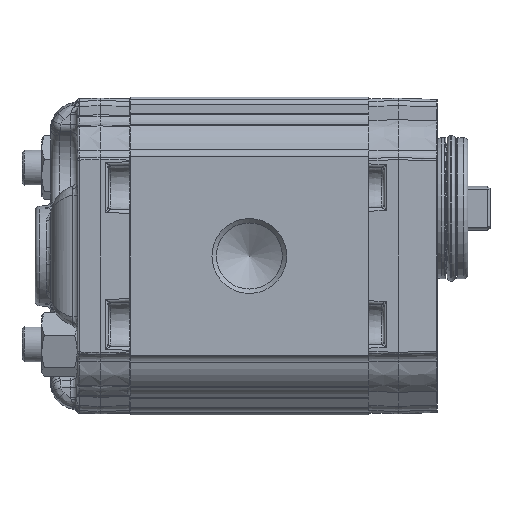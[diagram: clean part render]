
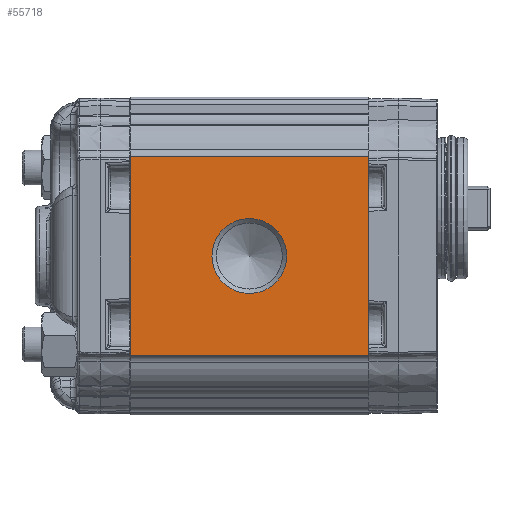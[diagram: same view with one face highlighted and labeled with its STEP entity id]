
A CAD part, left-side view. The second image highlights one B-rep face of the part: STEP entity #55718.
In plain terms, the highlighted planar face has unit normal (-1, 0, 0) as drawn and (1, 0, 0) by its records, which use the part's own axes.
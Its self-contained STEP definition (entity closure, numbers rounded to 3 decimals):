
#3276=PLANE('',#59160);
#4207=LINE('',#97574,#6105);
#4209=LINE('',#97603,#6107);
#4234=LINE('',#97691,#6132);
#4235=LINE('',#97693,#6133);
#6105=VECTOR('',#65987,1000.);
#6107=VECTOR('',#66015,1000.);
#6132=VECTOR('',#66108,1000.);
#6133=VECTOR('',#66111,1000.);
#11800=ORIENTED_EDGE('',*,*,#21317,.T.);
#11801=ORIENTED_EDGE('',*,*,#21307,.T.);
#11802=ORIENTED_EDGE('',*,*,#21259,.T.);
#11803=ORIENTED_EDGE('',*,*,#21308,.T.);
#11804=ORIENTED_EDGE('',*,*,#21245,.F.);
#21245=EDGE_CURVE('',#26271,#26272,#4207,.T.);
#21259=EDGE_CURVE('',#26286,#26285,#4209,.T.);
#21307=EDGE_CURVE('',#26271,#26286,#4234,.T.);
#21308=EDGE_CURVE('',#26285,#26272,#4235,.F.);
#21317=EDGE_CURVE('',#26315,#26315,#29426,.F.);
#26271=VERTEX_POINT('',#97573);
#26272=VERTEX_POINT('',#97575);
#26285=VERTEX_POINT('',#97602);
#26286=VERTEX_POINT('',#97604);
#26315=VERTEX_POINT('',#97719);
#29426=CIRCLE('',#59161,8.475);
#31728=EDGE_LOOP('',(#11800));
#31729=EDGE_LOOP('',(#11801,#11802,#11803,#11804));
#34517=FACE_BOUND('',#31728,.T.);
#34518=FACE_BOUND('',#31729,.T.);
#55718=ADVANCED_FACE('',(#34517,#34518),#3276,.T.);
#59160=AXIS2_PLACEMENT_3D('',#97717,#66150,#66151);
#59161=AXIS2_PLACEMENT_3D('',#97718,#66152,#66153);
#65987=DIRECTION('',(0.,0.,-1.));
#66015=DIRECTION('',(0.,0.,-1.));
#66108=DIRECTION('',(0.,-1.,0.));
#66111=DIRECTION('',(0.,-1.,0.));
#66150=DIRECTION('',(1.,0.,0.));
#66151=DIRECTION('',(0.,0.,-1.));
#66152=DIRECTION('',(1.,0.,0.));
#66153=DIRECTION('',(0.,0.,-1.));
#97573=CARTESIAN_POINT('',(33.,54.,22.5));
#97574=CARTESIAN_POINT('',(33.,54.,-21.711));
#97575=CARTESIAN_POINT('',(33.,54.,-22.5));
#97602=CARTESIAN_POINT('',(33.,0.,-22.5));
#97603=CARTESIAN_POINT('',(33.,0.,-21.711));
#97604=CARTESIAN_POINT('',(33.,0.,22.5));
#97691=CARTESIAN_POINT('',(33.,54.,22.5));
#97693=CARTESIAN_POINT('',(33.,54.,-22.5));
#97717=CARTESIAN_POINT('',(33.,129.534,-45.494));
#97718=CARTESIAN_POINT('',(33.,27.,0.));
#97719=CARTESIAN_POINT('',(33.,27.,-8.475));
